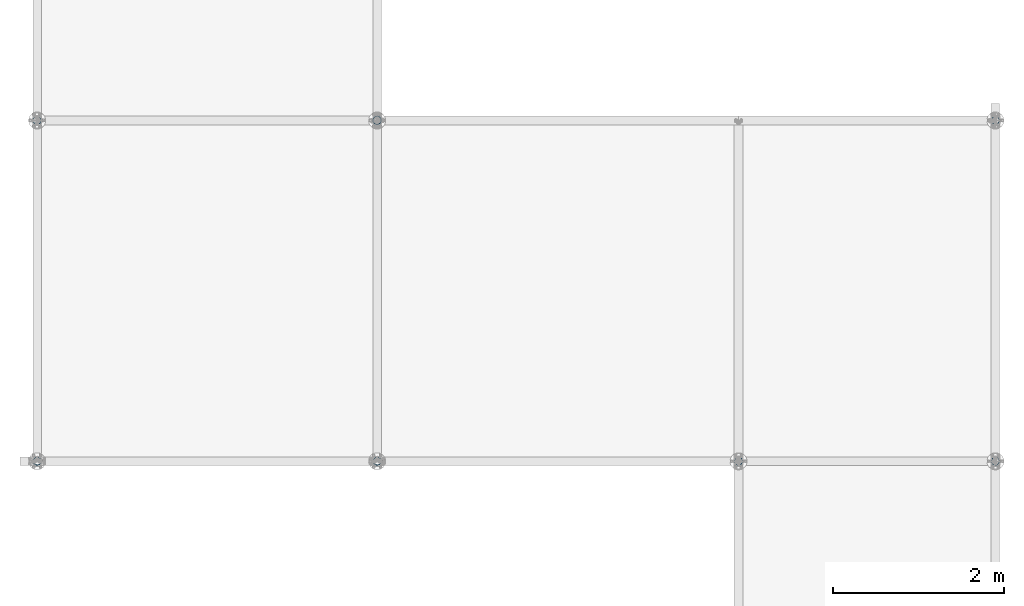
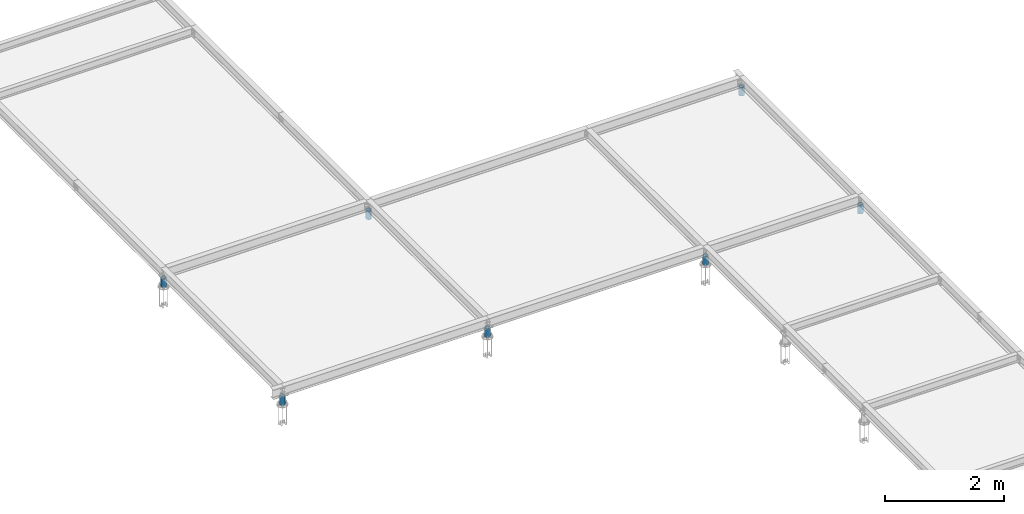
# One storey, part 2 of 84: 7 columns.
"""IFC4 building model written with IfcOpenShell, lengths in metres."""

import ifcopenshell
import ifcopenshell.guid

model = None  # the IFC model being written
_history = None  # IfcOwnerHistory: only IFC2X3 demands one
_inside = {}  # id of a spatial element -> (the spatial element, [elements in it])
_under = {}  # id of a project, library or spatial element -> (it, [spatial elements below it])
_declared = {}  # id of a project -> (the project, [libraries it declares])
_typed = {}  # id of a type object -> (the type object, [elements of that type])
_made_of = {}  # id of a material, layer set ... -> (it, [elements and type objects made of it])


def new_model(schema):
    """Start an empty IFC model of exactly this schema.

    Asked for "IFC4X3", IfcOpenShell would pick the latest addendum, in which some entities
    have other attributes; the version numbers below select the first issue.
    IFC2X3 requires an IfcOwnerHistory on every rooted entity: one is made here for all.
    """
    global model, _history
    if schema == "IFC4X3":
        model = ifcopenshell.file(schema_version=(4, 3, 0, 0))
    else:
        model = ifcopenshell.file(schema=schema)
    _inside.clear()
    _under.clear()
    _declared.clear()
    _typed.clear()
    _made_of.clear()
    _history = None
    if model.schema == "IFC2X3":
        org = make("IfcOrganization", Name="unknown")
        user = make(
            "IfcPersonAndOrganization",
            ThePerson=make("IfcPerson", FamilyName="unknown"),
            TheOrganization=org,
        )
        app = make(
            "IfcApplication",
            ApplicationDeveloper=org,
            Version="unknown",
            ApplicationFullName="unknown",
            ApplicationIdentifier="unknown",
        )
        _history = make(
            "IfcOwnerHistory",
            OwningUser=user,
            OwningApplication=app,
            ChangeAction="ADDED",
            CreationDate=0,
        )
    return model


def make(cls, **values):
    """One entity of the class cls with the attributes given. An attribute that is None is left unset."""
    return model.create_entity(
        cls, **{name: value for name, value in values.items() if value is not None}
    )


def rooted(cls, **values):
    """An entity with a GlobalId (a new one), such as an element, a storey or a relation."""
    return make(cls, GlobalId=ifcopenshell.guid.new(), OwnerHistory=_history, **values)


def si_unit(unit_type, name, prefix=None):
    """IfcSIUnit, for example si_unit("LENGTHUNIT", "METRE", prefix="MILLI")."""
    return make("IfcSIUnit", UnitType=unit_type, Prefix=prefix, Name=name)


def assignment(units):
    """IfcUnitAssignment: the units of a project."""
    return None if units is None else make("IfcUnitAssignment", Units=units)


def point(xyz):
    """IfcCartesianPoint."""
    return None if xyz is None else make("IfcCartesianPoint", Coordinates=xyz)


def direction(xyz):
    """IfcDirection."""
    return None if xyz is None else make("IfcDirection", DirectionRatios=xyz)


def frame(location, z_axis=None, x_axis=None):
    """IfcAxis2Placement3D, a coordinate frame: its origin and axes. An axis left out is left unset."""
    return make(
        "IfcAxis2Placement3D",
        Location=point(location),
        Axis=direction(z_axis),
        RefDirection=direction(x_axis),
    )


def frame_2d(location, x_axis=None):
    """IfcAxis2Placement2D, a coordinate frame in the plane: its origin and x axis."""
    return make(
        "IfcAxis2Placement2D", Location=point(location), RefDirection=direction(x_axis)
    )


def origin_with_axes():
    """The frame at (0, 0, 0) with the z axis (0, 0, 1) and the x axis (1, 0, 0) written out."""
    return frame((0.0, 0.0, 0.0), z_axis=(0.0, 0.0, 1.0), x_axis=(1.0, 0.0, 0.0))


def origin_2d_with_axis():
    """The frame at (0, 0) in the plane with the x axis (1, 0) written out."""
    return frame_2d((0.0, 0.0), x_axis=(1.0, 0.0))


def place(relative_to, where):
    """IfcLocalPlacement: puts the frame where relative to a parent placement (None: the world)."""
    return make(
        "IfcLocalPlacement", PlacementRelTo=relative_to, RelativePlacement=where
    )


def context(
    kind, dimensions, precision=None, world=None, true_north=None, identifier=None
):
    """IfcGeometricRepresentationContext, for example the 3D "Model" context."""
    return make(
        "IfcGeometricRepresentationContext",
        ContextIdentifier=identifier,
        ContextType=kind,
        CoordinateSpaceDimension=dimensions,
        Precision=precision,
        WorldCoordinateSystem=world,
        TrueNorth=true_north,
    )


def project(units=None, contexts=None):
    """IfcProject with its units and contexts."""
    return rooted(
        "IfcProject",
        Name="project",
        RepresentationContexts=contexts,
        UnitsInContext=assignment(units),
    )


def spatial(cls, under=None, at=None, **own):
    """A site, building, storey or space (cls), placed at a placement, below another one or the project."""
    s = rooted(cls, ObjectPlacement=at, **own)
    if under is not None:
        _under.setdefault(under.id(), (under, []))[1].append(s)
    return s


def profile(cls, at=None, kind="AREA", **sizes):
    """A parametric profile (cls). Its sizes go by their IFC names, for example OverallWidth=200.0."""
    return make(cls, ProfileType=kind, Position=at, **sizes)


def hollow_circle(**sizes):
    """IfcCircleHollowProfileDef."""
    return profile("IfcCircleHollowProfileDef", **sizes)


def i_section(**sizes):
    """IfcIShapeProfileDef."""
    return profile("IfcIShapeProfileDef", **sizes)


def extrude(swept, where, along, depth):
    """IfcExtrudedAreaSolid: the profile swept, set in the frame where, extruded along a direction by depth."""
    return make(
        "IfcExtrudedAreaSolid",
        SweptArea=swept,
        Position=where,
        ExtrudedDirection=direction(along),
        Depth=depth,
    )


def clip(a, b, op="DIFFERENCE"):
    """IfcBooleanClippingResult: the solid a cut by the half space b."""
    return make(
        "IfcBooleanClippingResult", Operator=op, FirstOperand=a, SecondOperand=b
    )


def halfspace(plane, agree):
    """IfcHalfSpaceSolid: all space on one side of the plane z = 0 of the frame plane."""
    return make(
        "IfcHalfSpaceSolid",
        BaseSurface=make("IfcPlane", Position=plane),
        AgreementFlag=agree,
    )


def shape(context_of_items, identifier, shape_type, items):
    """IfcShapeRepresentation: the items that make up one representation, for example the "Body"."""
    return make(
        "IfcShapeRepresentation",
        ContextOfItems=context_of_items,
        RepresentationIdentifier=identifier,
        RepresentationType=shape_type,
        Items=items,
    )


def material(Name=None, Category=None):
    """IfcMaterial."""
    return make("IfcMaterial", Name=Name, Category=Category)


def material_profile(
    of_material, cross_section, Name=None, Category=None, Priority=None
):
    """IfcMaterialProfile: a cross section and its material."""
    return make(
        "IfcMaterialProfile",
        Name=Name,
        Material=of_material,
        Profile=cross_section,
        Priority=Priority,
        Category=Category,
    )


def profile_set(profiles, Name=None, composite=None):
    """IfcMaterialProfileSet."""
    return make(
        "IfcMaterialProfileSet",
        Name=Name,
        MaterialProfiles=profiles,
        CompositeProfile=composite,
    )


def profile_usage(for_profile_set, cardinal=None, extent=None):
    """IfcMaterialProfileSetUsage: how a profile set lies along its element."""
    return make(
        "IfcMaterialProfileSetUsage",
        ForProfileSet=for_profile_set,
        CardinalPoint=cardinal,
        ReferenceExtent=extent,
    )


def made_of(thing, what):
    """Note that an element or type object is made of a material, layer set ...; save() writes the relation."""
    if what is not None:
        _made_of.setdefault(what.id(), (what, []))[1].append(thing)
    return thing


def type_object(cls, material=None, **own):
    """A type object (cls), such as IfcWallType, which elements share."""
    return made_of(rooted(cls, **own), material)


def element(
    cls,
    number,
    at=None,
    inside=None,
    cuts=None,
    type_object=None,
    material=None,
    context=None,
    identifier="Body",
    shape_type=None,
    held_by="IfcProductDefinitionShape",
    body=None,
    shapes=None,
    **own,
):
    """One element of the class cls, such as IfcWall. Its Tag is "e" and its number.

    at: its placement. inside: the storey or other place that contains it. cuts: it is an
    opening in that element (IfcRelVoidsElement). A single representation is given by context,
    identifier, shape_type and body (its items); several are given by shapes. held_by: the class
    of the entity that holds the representations. save() writes the other relations.
    """
    e = rooted(cls, Tag="e%d" % number, ObjectPlacement=at, **own)
    if body is not None:
        shapes = [shape(context, identifier, shape_type, body)]
    if shapes is not None:
        e.Representation = make(held_by, Representations=shapes)
    if inside is not None:
        _inside.setdefault(inside.id(), (inside, []))[1].append(e)
    if cuts is not None:
        rooted(
            "IfcRelVoidsElement", RelatingBuildingElement=cuts, RelatedOpeningElement=e
        )
    if type_object is not None:
        _typed.setdefault(type_object.id(), (type_object, []))[1].append(e)
    return made_of(e, material)


def aggregate(whole, parts):
    """IfcRelAggregates: a whole, such as a stair, and the parts it consists of."""
    return rooted("IfcRelAggregates", RelatingObject=whole, RelatedObjects=parts)


def save(model, path):
    """Write the relations noted so far, then the file.

    IfcRelAggregates (storeys below a building ...), IfcRelContainedInSpatialStructure (elements
    in a storey), IfcRelDefinesByType, IfcRelAssociatesMaterial and IfcRelDeclares: one each for
    every whole, place, type object, material and project.
    """
    for whole, parts in _under.values():
        aggregate(whole, parts)
    for where, things in _inside.values():
        rooted(
            "IfcRelContainedInSpatialStructure",
            RelatedElements=things,
            RelatingStructure=where,
        )
    for kind, things in _typed.values():
        rooted("IfcRelDefinesByType", RelatedObjects=things, RelatingType=kind)
    for what, things in _made_of.values():
        rooted("IfcRelAssociatesMaterial", RelatedObjects=things, RelatingMaterial=what)
    for by, libraries in _declared.values():
        rooted("IfcRelDeclares", RelatingContext=by, RelatedDefinitions=libraries)
    model.write(path)


model = new_model("IFC4")

# Units and contexts
model_context = context("Model", 3, precision=1e-05, world=origin_with_axes())
ifc_project = project(units=[si_unit("LENGTHUNIT", "METRE"), si_unit("AREAUNIT", "SQUARE_METRE"), si_unit("VOLUMEUNIT", "CUBIC_METRE"), si_unit("MASSUNIT", "GRAM", prefix="KILO"), si_unit("TIMEUNIT", "SECOND"), si_unit("PLANEANGLEUNIT", "RADIAN"), si_unit("SOLIDANGLEUNIT", "STERADIAN"), si_unit("THERMODYNAMICTEMPERATUREUNIT", "DEGREE_CELSIUS")], contexts=[model_context])

# Site, building, storey
placement_1 = place(None, origin_with_axes())
site = spatial("IfcSite", under=ifc_project, at=placement_1, Name="Italia", CompositionType="ELEMENT")
building = spatial("IfcBuilding", under=site, at=placement_1, Name="Tettoia", CompositionType="ELEMENT")
storey_placement = place(None, frame((0.0, 0.0, 4.199999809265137), z_axis=(0.0, 0.0, 1.0), x_axis=(1.0, 0.0, 0.0)))
storey = spatial("IfcBuildingStorey", under=building, at=storey_placement, Name="Storey 1", CompositionType="ELEMENT", Elevation=4.199999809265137)

# Columns
ifc_material = material(Name="Acciaio", Category="Acciaio")
ifc_material_profile = material_profile(ifc_material, i_section(OverallWidth=0.082, OverallDepth=0.16, WebThickness=0.005, FlangeThickness=0.0074, FilletRadius=0.009, at=origin_2d_with_axis()), Name="3 IPE160")
ifc_profile_set = profile_set([ifc_material_profile])
ifc_profile_usage_1 = profile_usage(ifc_profile_set, cardinal=1)
column_type_1 = type_object("IfcColumnType", Name="4 CC101x5", PredefinedType="COLUMN", material=ifc_profile_usage_1)
placement_2 = place(placement_1, origin_with_axes())
column_1_placement = place(placement_2, frame((11.290000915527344, 13.952286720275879, 3.899999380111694), z_axis=(0.0, 0.0, 1.0), x_axis=(1.0, 0.0, 0.0)))
element("IfcColumn", 1, at=column_1_placement, inside=storey, type_object=column_type_1, Name="18", context=model_context, shape_type="Clipping", body=[
    clip(clip(extrude(hollow_circle(Radius=0.0505, WallThickness=0.005, at=origin_2d_with_axis()), frame((0.0, 0.0, 0.0), z_axis=(0.0, 0.0, 1.0), x_axis=(0.0, 1.0, 0.0)), (0.0, 0.0, 1.0), 0.4), halfspace(frame((0.0, -0.002285, 0.116999), z_axis=(0.0, 0.0, -1.0), x_axis=(1.0, 0.0, 0.0)), False)), halfspace(frame((0.0, -0.002285, 0.290002), z_axis=(0.0, 0.0, -1.0), x_axis=(1.0, 0.0, 0.0)), True)),
])
ifc_profile_usage_2 = profile_usage(ifc_profile_set, cardinal=1)
column_type_2 = type_object("IfcColumnType", Name="4 CC101x5", PredefinedType="COLUMN", material=ifc_profile_usage_2)
column_2_placement = place(placement_2, frame((4.069999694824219, 13.952286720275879, 3.899999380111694), z_axis=(0.0, 0.0, 1.0), x_axis=(1.0, 0.0, 0.0)))
element("IfcColumn", 2, at=column_2_placement, inside=storey, type_object=column_type_2, Name="19", context=model_context, shape_type="Clipping", body=[
    clip(clip(extrude(hollow_circle(Radius=0.0505, WallThickness=0.005, at=origin_2d_with_axis()), frame((0.0, 0.0, 0.0), z_axis=(0.0, 0.0, 1.0), x_axis=(0.0, 1.0, 0.0)), (0.0, 0.0, 1.0), 0.4), halfspace(frame((-4.76837e-07, -0.002285, 0.115), z_axis=(0.0, 0.0, -1.0), x_axis=(1.0, 0.0, 0.0)), False)), halfspace(frame((-4.76837e-07, -0.002285, 0.295002), z_axis=(0.0, 0.0, -1.0), x_axis=(1.0, 0.0, 0.0)), True)),
])
ifc_profile_usage_3 = profile_usage(ifc_profile_set, cardinal=1)
column_type_3 = type_object("IfcColumnType", Name="4 CC101x5", PredefinedType="COLUMN", material=ifc_profile_usage_3)
column_3_placement = place(placement_2, frame((0.099999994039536, 13.952286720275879, 3.899999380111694), z_axis=(0.0, 0.0, 1.0), x_axis=(1.0, 0.0, 0.0)))
element("IfcColumn", 3, at=column_3_placement, inside=storey, type_object=column_type_3, Name="11", context=model_context, shape_type="Clipping", body=[
    clip(clip(extrude(hollow_circle(Radius=0.0505, WallThickness=0.005, at=origin_2d_with_axis()), frame((0.0, 0.0, 0.0), z_axis=(0.0, 0.0, 1.0), x_axis=(0.0, 1.0, 0.0)), (0.0, 0.0, 1.0), 0.4), halfspace(frame((0.0, -0.002285, 0.115), z_axis=(0.0, 0.0, -1.0), x_axis=(1.0, 0.0, 0.0)), False)), halfspace(frame((0.0, -0.002285, 0.295002), z_axis=(0.0, 0.0, -1.0), x_axis=(1.0, 0.0, 0.0)), True)),
])
ifc_profile_usage_4 = profile_usage(ifc_profile_set, cardinal=1)
column_type_4 = type_object("IfcColumnType", Name="4 CC101x5", PredefinedType="COLUMN", material=ifc_profile_usage_4)
column_4_placement = place(placement_2, frame((0.099999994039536, 9.97228717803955, 3.899999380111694), z_axis=(0.0, 0.0, 1.0), x_axis=(1.0, 0.0, 0.0)))
element("IfcColumn", 4, at=column_4_placement, inside=storey, type_object=column_type_4, Name="7", context=model_context, shape_type="Clipping", body=[
    clip(clip(extrude(hollow_circle(Radius=0.0505, WallThickness=0.005, at=origin_2d_with_axis()), frame((0.0, 0.0, 0.0), z_axis=(0.0, 0.0, 1.0), x_axis=(0.0, 1.0, 0.0)), (0.0, 0.0, 1.0), 0.4), halfspace(frame((0.0, -0.00228596, 0.115), z_axis=(0.0, 0.0, -1.0), x_axis=(1.0, 0.0, 0.0)), False)), halfspace(frame((0.0, -0.00228596, 0.295002), z_axis=(0.0, 0.0, -1.0), x_axis=(1.0, 0.0, 0.0)), True)),
])
ifc_profile_usage_5 = profile_usage(ifc_profile_set, cardinal=1)
column_type_5 = type_object("IfcColumnType", Name="4 CC101x5", PredefinedType="COLUMN", material=ifc_profile_usage_5)
column_5_placement = place(placement_2, frame((4.069999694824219, 9.97228717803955, 3.899999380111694), z_axis=(0.0, 0.0, 1.0), x_axis=(1.0, 0.0, 0.0)))
element("IfcColumn", 5, at=column_5_placement, inside=storey, type_object=column_type_5, Name="20", context=model_context, shape_type="Clipping", body=[
    clip(clip(extrude(hollow_circle(Radius=0.0505, WallThickness=0.005, at=origin_2d_with_axis()), frame((0.0, 0.0, 0.0), z_axis=(0.0, 0.0, 1.0), x_axis=(0.0, 1.0, 0.0)), (0.0, 0.0, 1.0), 0.4), halfspace(frame((-4.76837e-07, -0.00228596, 0.115), z_axis=(0.0, 0.0, -1.0), x_axis=(1.0, 0.0, 0.0)), False)), halfspace(frame((-4.76837e-07, -0.00228596, 0.295002), z_axis=(0.0, 0.0, -1.0), x_axis=(1.0, 0.0, 0.0)), True)),
])
ifc_profile_usage_6 = profile_usage(ifc_profile_set, cardinal=1)
column_type_6 = type_object("IfcColumnType", Name="4 CC101x5", PredefinedType="COLUMN", material=ifc_profile_usage_6)
column_6_placement = place(placement_2, frame((8.290000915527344, 9.97228717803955, 3.899999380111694), z_axis=(0.0, 0.0, 1.0), x_axis=(1.0, 0.0, 0.0)))
element("IfcColumn", 6, at=column_6_placement, inside=storey, type_object=column_type_6, Name="21", context=model_context, shape_type="Clipping", body=[
    clip(clip(extrude(hollow_circle(Radius=0.0505, WallThickness=0.005, at=origin_2d_with_axis()), frame((0.0, 0.0, 0.0), z_axis=(0.0, 0.0, 1.0), x_axis=(0.0, 1.0, 0.0)), (0.0, 0.0, 1.0), 0.4), halfspace(frame((0.0, -0.00228596, 0.115), z_axis=(0.0, 0.0, -1.0), x_axis=(1.0, 0.0, 0.0)), False)), halfspace(frame((0.0, -0.00228596, 0.295002), z_axis=(0.0, 0.0, -1.0), x_axis=(1.0, 0.0, 0.0)), True)),
])
ifc_profile_usage_7 = profile_usage(ifc_profile_set, cardinal=1)
column_type_7 = type_object("IfcColumnType", Name="4 CC101x5", PredefinedType="COLUMN", material=ifc_profile_usage_7)
column_7_placement = place(placement_2, frame((11.290000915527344, 9.97228717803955, 3.899999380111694), z_axis=(0.0, 0.0, 1.0), x_axis=(1.0, 0.0, 0.0)))
element("IfcColumn", 7, at=column_7_placement, inside=storey, type_object=column_type_7, Name="10", context=model_context, shape_type="Clipping", body=[
    clip(clip(extrude(hollow_circle(Radius=0.0505, WallThickness=0.005, at=origin_2d_with_axis()), frame((0.0, 0.0, 0.0), z_axis=(0.0, 0.0, 1.0), x_axis=(0.0, 1.0, 0.0)), (0.0, 0.0, 1.0), 0.4), halfspace(frame((0.0, -0.00228596, 0.115), z_axis=(0.0, 0.0, -1.0), x_axis=(1.0, 0.0, 0.0)), False)), halfspace(frame((0.0, -0.00228596, 0.295002), z_axis=(0.0, 0.0, -1.0), x_axis=(1.0, 0.0, 0.0)), True)),
])

save(model, "model.ifc")
